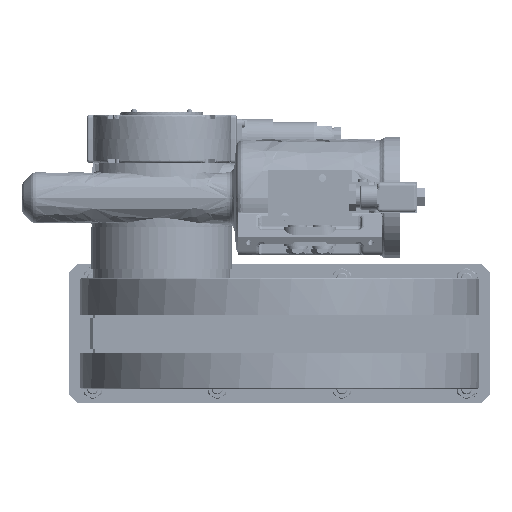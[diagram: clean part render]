
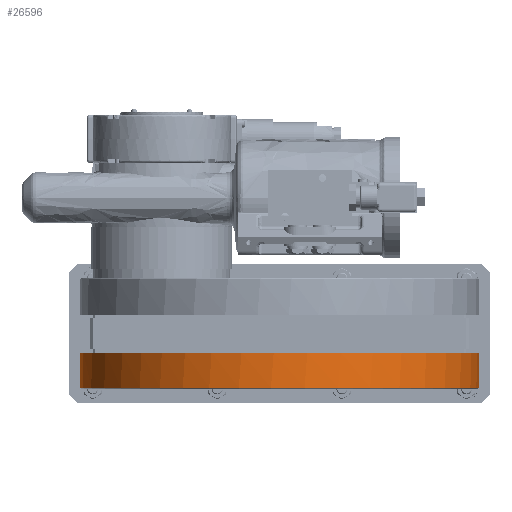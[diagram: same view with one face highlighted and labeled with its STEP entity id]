
A CAD part, front view. The second image highlights one B-rep face of the part: STEP entity #26596.
In plain terms, the highlighted free-form (B-spline) face has degree [2, 1] with [7, 2] control points.
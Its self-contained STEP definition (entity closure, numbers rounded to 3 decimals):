
#26521=CARTESIAN_POINT('V6',(0.,143.9,0.0)
   );
#26522=VERTEX_POINT('V6',#26521);
#26523=CARTESIAN_POINT('E9',(0.,143.9,0.0)
   );
#26524=CARTESIAN_POINT('E9',(0.,143.9,
   249.242));
#26525=CARTESIAN_POINT('E9',(0.,-71.95,
   124.621));
#26526=CARTESIAN_POINT('E9',(0.,-287.8,
   0.));
#26527=CARTESIAN_POINT('E9',(0.,-71.95,
   -124.621));
#26528=CARTESIAN_POINT('E9',(0.,143.9,
   -249.242));
#26529=CARTESIAN_POINT('E9',(0.,143.9,0.0)
   );
#26537=(BOUNDED_CURVE()B_SPLINE_CURVE(2,(#26523,#26524,#26525,
   #26526,#26527,#26528,#26529),.CIRCULAR_ARC.,.T.,.U.)
   B_SPLINE_CURVE_WITH_KNOTS((3,2,2,3),(0.0,19.587,
   39.174,58.76),.UNSPECIFIED.)CURVE()
   GEOMETRIC_REPRESENTATION_ITEM()RATIONAL_B_SPLINE_CURVE((1.0,
   0.5,1.0,0.5,1.0,0.5,1.0)
   )REPRESENTATION_ITEM('E9'));
#26538=EDGE_CURVE('E9',#26522,#26522,#26537,.T.);
#26546=CARTESIAN_POINT('F5',(0.,143.9,0.0)
   );
#26547=CARTESIAN_POINT('F5',(0.,143.9,
   249.242));
#26548=CARTESIAN_POINT('F5',(0.,-71.95,
   124.621));
#26549=CARTESIAN_POINT('F5',(0.,-287.8,
   0.));
#26550=CARTESIAN_POINT('F5',(0.,-71.95,
   -124.621));
#26551=CARTESIAN_POINT('F5',(0.,143.9,
   -249.242));
#26552=CARTESIAN_POINT('F5',(0.,143.9,0.0)
   );
#26553=CARTESIAN_POINT('F5',(25.45,143.9,
   0.0));
#26554=CARTESIAN_POINT('F5',(25.45,143.9,
   249.242));
#26555=CARTESIAN_POINT('F5',(25.45,-71.95,
   124.621));
#26556=CARTESIAN_POINT('F5',(25.45,-287.8,
   0.));
#26557=CARTESIAN_POINT('F5',(25.45,-71.95,
   -124.621));
#26558=CARTESIAN_POINT('F5',(25.45,143.9,
   -249.242));
#26559=CARTESIAN_POINT('F5',(25.45,143.9,
   0.0));
#26567=(BOUNDED_SURFACE()B_SPLINE_SURFACE(2,1,((#26546,#26553),(
   #26547,#26554),(#26548,#26555),(#26549,#26556),(#26550,
   #26557),(#26551,#26558),(#26552,#26559)),.CYLINDRICAL_SURF.,
   .T.,.F.,.U.)B_SPLINE_SURFACE_WITH_KNOTS((3,2,2,3),(2,2),(0.0,
   19.587,39.174,58.76),(0.0,
   1.0),.UNSPECIFIED.)GEOMETRIC_REPRESENTATION_ITEM()
   RATIONAL_B_SPLINE_SURFACE(((1.0,1.0),(0.5,
   0.5),(1.0,1.0),(0.5,
   0.5),(1.0,1.0),(0.5,
   0.5),(1.0,1.0)))REPRESENTATION_ITEM('F5')SURFACE()
   );
#26568=CARTESIAN_POINT('V2',(25.45,143.9,
   0.0));
#26569=VERTEX_POINT('V2',#26568);
#26570=CARTESIAN_POINT('E10',(25.45,143.9,
   0.0));
#26571=CARTESIAN_POINT('E10',(0.,143.9,0.0)
   );
#26572=QUASI_UNIFORM_CURVE('E10',1,(#26570,#26571),.POLYLINE_FORM.,
   .F.,.U.);
#26573=EDGE_CURVE('E10',#26569,#26522,#26572,.T.);
#26574=ORIENTED_EDGE('E10',*,*,#26573,.F.);
#26575=CARTESIAN_POINT('E2',(25.45,143.9,
   0.0));
#26576=CARTESIAN_POINT('E2',(25.45,143.9,
   -249.242));
#26577=CARTESIAN_POINT('E2',(25.45,-71.95,
   -124.621));
#26578=CARTESIAN_POINT('E2',(25.45,-287.8,
   0.));
#26579=CARTESIAN_POINT('E2',(25.45,-71.95,
   124.621));
#26580=CARTESIAN_POINT('E2',(25.45,143.9,
   249.242));
#26581=CARTESIAN_POINT('E2',(25.45,143.9,
   0.0));
#26589=(BOUNDED_CURVE()B_SPLINE_CURVE(2,(#26575,#26576,#26577,
   #26578,#26579,#26580,#26581),.CIRCULAR_ARC.,.T.,.U.)
   B_SPLINE_CURVE_WITH_KNOTS((3,2,2,3),(0.0,19.587,
   39.174,58.76),.UNSPECIFIED.)CURVE()
   GEOMETRIC_REPRESENTATION_ITEM()RATIONAL_B_SPLINE_CURVE((1.0,
   0.5,1.0,0.5,1.0,0.5,1.0)
   )REPRESENTATION_ITEM('E2'));
#26590=EDGE_CURVE('E2',#26569,#26569,#26589,.T.);
#26591=ORIENTED_EDGE('E2',*,*,#26590,.F.);
#26592=ORIENTED_EDGE('E10',*,*,#26573,.T.);
#26593=ORIENTED_EDGE('F4',*,*,#26538,.F.);
#26594=EDGE_LOOP('F5',(#26574,#26591,#26592,#26593));
#26595=FACE_OUTER_BOUND('F5',#26594,.F.);
#26596=ADVANCED_FACE('F5',(#26595),#26567,.T.);
